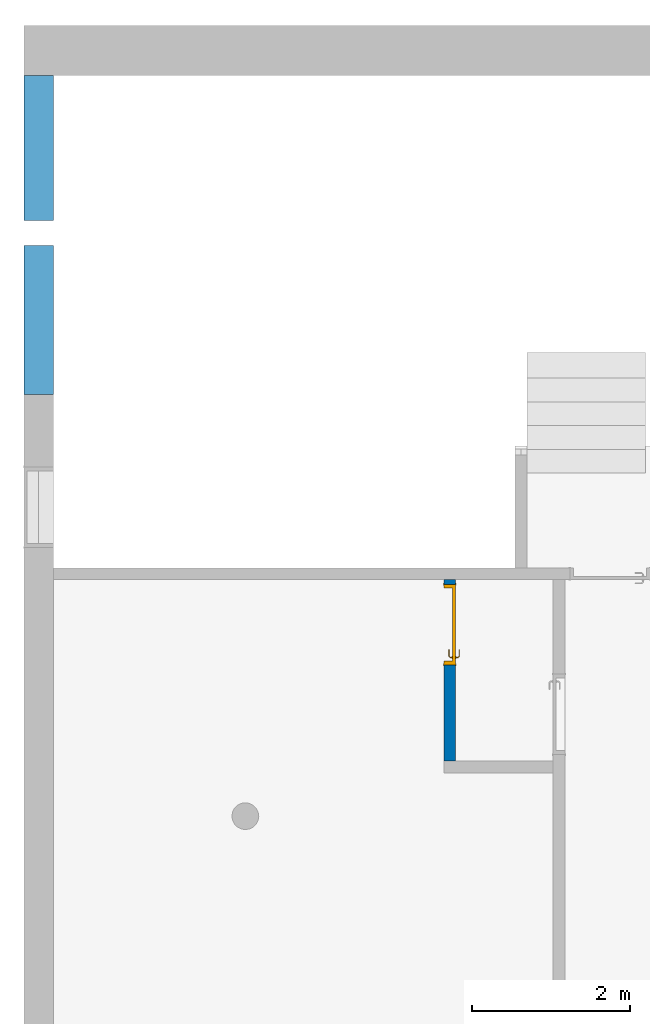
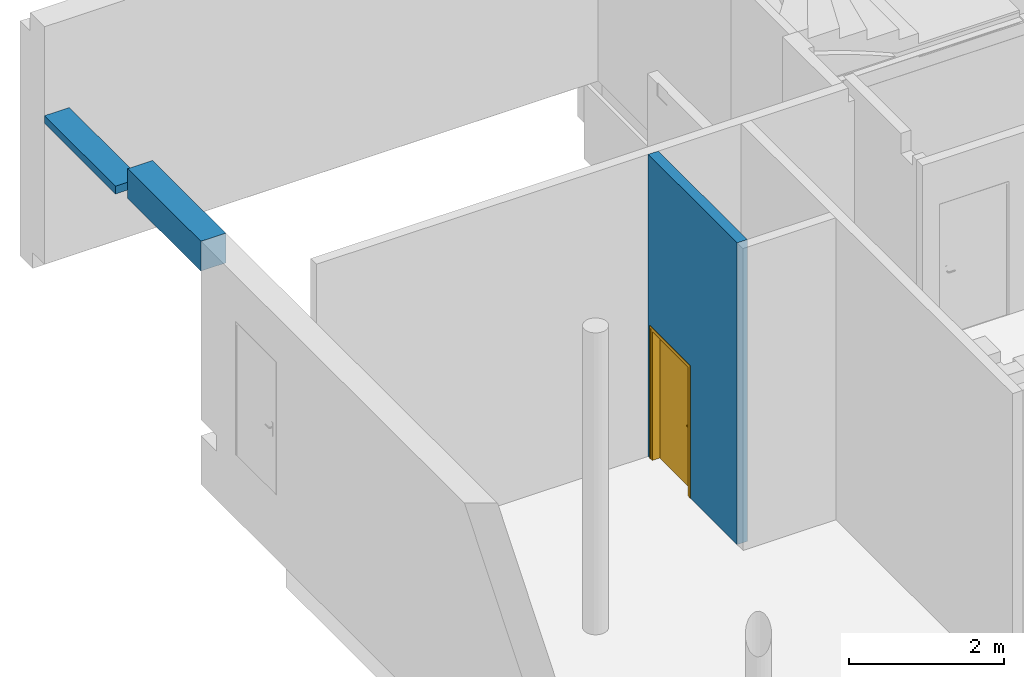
# One storey, part 5 of 39: 3 walls, 1 door, 1 opening.
"""IFC4 building model written with IfcOpenShell, lengths in metres."""

from ifc_helpers import new_model, entity, si_unit, converted_unit, derived_unit, direction, frame, origin, place, context, subcontext, project, spatial, indexed_curve, outline, extrude, polygons, source, transform, mapped, material, material_list, layer, layer_set, constituent, constituent_set, type_object, type_shapes, element, fill, save


model = new_model("IFC4")

# Units and contexts
model_context = context("Model", 3, precision=1e-05, world=origin(), true_north=direction((6.12303176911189e-17, 1.0)))
body_context = subcontext(model_context, "Body", "Model", "MODEL_VIEW")
ifc_project = project(units=[si_unit("LENGTHUNIT", "METRE"), si_unit("AREAUNIT", "SQUARE_METRE"), si_unit("VOLUMEUNIT", "CUBIC_METRE"), converted_unit("PLANEANGLEUNIT", "DEGREE", entity("IfcRatioMeasure", 0.0174532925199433), si_unit("PLANEANGLEUNIT", "RADIAN"), dimensions=[0, 0, 0, 0, 0, 0, 0]), si_unit("MASSUNIT", "GRAM", prefix="KILO"), derived_unit("MASSDENSITYUNIT", [(si_unit("MASSUNIT", "GRAM", prefix="KILO"), 1), (si_unit("LENGTHUNIT", "METRE"), -3)]), derived_unit("MOMENTOFINERTIAUNIT", [(si_unit("LENGTHUNIT", "METRE"), 4)]), si_unit("TIMEUNIT", "SECOND"), si_unit("FREQUENCYUNIT", "HERTZ"), si_unit("THERMODYNAMICTEMPERATUREUNIT", "DEGREE_CELSIUS"), derived_unit("THERMALTRANSMITTANCEUNIT", [(si_unit("MASSUNIT", "GRAM", prefix="KILO"), 1), (si_unit("THERMODYNAMICTEMPERATUREUNIT", "KELVIN"), -1), (si_unit("TIMEUNIT", "SECOND"), -3)]), derived_unit("VOLUMETRICFLOWRATEUNIT", [(si_unit("LENGTHUNIT", "METRE"), 3), (si_unit("TIMEUNIT", "SECOND"), -1)]), si_unit("ELECTRICCURRENTUNIT", "AMPERE"), si_unit("ELECTRICVOLTAGEUNIT", "VOLT"), si_unit("POWERUNIT", "WATT"), si_unit("FORCEUNIT", "NEWTON", prefix="KILO"), si_unit("ILLUMINANCEUNIT", "LUX"), si_unit("LUMINOUSFLUXUNIT", "LUMEN"), si_unit("LUMINOUSINTENSITYUNIT", "CANDELA"), derived_unit("USERDEFINED", [(si_unit("MASSUNIT", "GRAM", prefix="KILO"), -1), (si_unit("LENGTHUNIT", "METRE"), -2), (si_unit("TIMEUNIT", "SECOND"), 3), (si_unit("LUMINOUSFLUXUNIT", "LUMEN"), 1)]), derived_unit("LINEARVELOCITYUNIT", [(si_unit("LENGTHUNIT", "METRE"), 1), (si_unit("TIMEUNIT", "SECOND"), -1)]), si_unit("PRESSUREUNIT", "PASCAL"), derived_unit("USERDEFINED", [(si_unit("LENGTHUNIT", "METRE"), -2), (si_unit("MASSUNIT", "GRAM", prefix="KILO"), 1), (si_unit("TIMEUNIT", "SECOND"), -2)]), derived_unit("LINEARFORCEUNIT", [(si_unit("MASSUNIT", "GRAM", prefix="KILO"), 1), (si_unit("LENGTHUNIT", "METRE"), 1), (si_unit("TIMEUNIT", "SECOND"), -2), (si_unit("LENGTHUNIT", "METRE"), -1)]), derived_unit("PLANARFORCEUNIT", [(si_unit("MASSUNIT", "GRAM", prefix="KILO"), 1), (si_unit("LENGTHUNIT", "METRE"), 1), (si_unit("TIMEUNIT", "SECOND"), -2), (si_unit("LENGTHUNIT", "METRE"), -2)])], contexts=[model_context])

# Site, building, storey
site_placement = place(None, origin())
site = spatial("IfcSite", under=ifc_project, at=site_placement, Name="Default", CompositionType="ELEMENT")
building_placement = place(site_placement, origin())
building = spatial("IfcBuilding", under=site, at=building_placement, Name="HOTEL CONSULAIRE BOULOGNE SUR MER", CompositionType="ELEMENT")
storey_placement = place(building_placement, frame((0.0, 0.0, -5.02343668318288)))
storey = spatial("IfcBuildingStorey", under=building, at=storey_placement, Name="SS3", CompositionType="ELEMENT", Elevation=-5.02343668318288)

# Wall, opening, door
ifc_material_1 = material(Name="Mur par défaut", Category="Divers")
ifc_layer_1 = layer(ifc_material_1, 0.15, Name="Mur par défaut", Category="Divers")
ifc_layer_set_1 = layer_set([ifc_layer_1], Name="Mur de base:Générique - Int. 150 mm")
wall_type_1 = type_object("IfcWallType", Name="Mur de base:Générique - Int. 150 mm", PredefinedType="NOTDEFINED", material=ifc_layer_set_1)
wall_1_placement = place(storey_placement, frame((-8.46043817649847, -19.1202500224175, 0.0), z_axis=(0.0, 0.0, 1.0), x_axis=(0.0, 1.0, 0.0)))
wall_1 = element("IfcWall", 1, at=wall_1_placement, inside=storey, type_object=wall_type_1, material=ifc_layer_set_1, Name="Mur de base:Générique - Int. 150 mm", ObjectType="Mur de base:Générique - Int. 150 mm", PredefinedType="NOTDEFINED", context=body_context, shape_type="Tessellation", body=[
    polygons([(2.29566577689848, 0.0750000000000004, 0.0), (2.29566577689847, -0.074999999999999, 0.0), (2.23766577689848, -0.0749999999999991, 0.0), (2.23766577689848, 0.0750000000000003, 0.0), (2.29566577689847, -0.074999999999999, 4.75343668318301), (0.0, -0.0749999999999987, 4.75343668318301), (0.0, -0.0749999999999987, 0.0), (1.21766577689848, -0.0749999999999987, 0.0), (1.21766577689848, -0.0749999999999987, 2.07500000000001), (2.23766577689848, -0.0749999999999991, 2.07500000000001), (0.0, 0.0750000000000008, 4.75343668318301), (2.29566577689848, 0.0750000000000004, 4.75343668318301), (2.23766577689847, 0.0750000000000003, 2.07500000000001), (1.21766577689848, 0.0750000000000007, 2.07500000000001), (1.21766577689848, 0.0750000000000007, 0.0), (0.0, 0.0750000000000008, 0.0)], [[[2, 3, 4, 1]], [[8, 7, 16, 15]], [[13, 10, 9, 14]], [[7, 8, 9, 10, 3, 2, 5, 6]], [[1, 4, 13, 14, 15, 16, 11, 12]], [[6, 5, 12, 11]], [[16, 7, 6, 11]], [[4, 3, 10, 13]], [[2, 1, 12, 5]], [[14, 9, 8, 15]]], closed=True),
])
opening_placement = place(wall_1_placement, frame((2.23766577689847, 0.0749999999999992, 0.0)))
opening = element("IfcOpeningElement", 2, at=opening_placement, cuts=wall_1, Name="Int. Simple:PP0.95x2.04 2:1", ObjectType="Opening", PredefinedType="OPENING", context=body_context, shape_type="SweptSolid", body=[
    extrude(outline(indexed_curve([(0.0, -7.0184260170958e-31), (2.07500000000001, -7.0184260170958e-31), (2.07500000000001, 1.02), (0.0, 1.02), (0.0, -7.0184260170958e-31)], self_intersect=False)), frame((0.0, 0.0, 0.0), z_axis=(0.0, -1.0, 0.0), x_axis=(0.0, 0.0, 1.0)), (0.0, 0.0, 1.0), 0.15),
])
ifc_material_2 = material(Name="Finition Peinture - Blanc satiné", Category="Peinture")
ifc_constituent_1 = constituent(ifc_material_2, Name="Finition Peinture - Blanc satiné", Category="Matériaux")
ifc_material_3 = material(Name="Bois - Panneau de porte", Category="Bois")
ifc_constituent_2 = constituent(ifc_material_3, Name="Bois - Panneau de porte", Category="Matériaux")
ifc_material_4 = material(Name="Bois - Cadre de porte", Category="Bois")
ifc_constituent_3 = constituent(ifc_material_4, Name="Bois - Cadre de porte", Category="Matériaux")
ifc_constituent_set = constituent_set(constituents=[ifc_constituent_1, ifc_constituent_2, ifc_constituent_3], Name="MaterialConstituentSet")
ifc_material_list = material_list([ifc_material_4, ifc_material_4, ifc_material_2, ifc_material_3])
door_type = type_object("IfcDoorType", Name="Int. Simple:PP0.95x2.04 2", OperationType="NOTDEFINED", PredefinedType="DOOR", material=ifc_material_list)
shared_shape = source(origin(), body_context, "Body", "Tessellation", [
    polygons([(0.0750000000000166, -0.00500000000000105, 0.870000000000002), (0.0846472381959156, -0.00500000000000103, 0.866003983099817), (0.0950000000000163, -0.00500000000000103, 0.86464101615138), (0.105352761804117, -0.00500000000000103, 0.866003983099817), (0.115000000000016, -0.00500000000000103, 0.870000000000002), (0.115000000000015, -0.00500000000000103, 1.08), (0.105352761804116, -0.00500000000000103, 1.08399601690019), (0.0950000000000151, -0.00500000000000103, 1.08535898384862), (0.0846472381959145, -0.00500000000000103, 1.08399601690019), (0.0750000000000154, -0.00500000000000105, 1.08), (0.0750000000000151, -1.04902753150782e-15, 0.870000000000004), (0.0750000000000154, -1.04902753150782e-15, 1.08), (0.0846472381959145, -1.04902753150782e-15, 1.08399601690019), (0.0950000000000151, -1.04056763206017e-15, 1.08535898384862), (0.105352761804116, -1.04056763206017e-15, 1.08399601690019), (0.115000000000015, -1.03210773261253e-15, 1.08), (0.115000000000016, -1.03210773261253e-15, 0.870000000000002), (0.105352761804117, -1.04056763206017e-15, 0.866003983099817), (0.0950000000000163, -1.04056763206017e-15, 0.86464101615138), (0.0846472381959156, -1.04902753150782e-15, 0.866003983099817)], [[[4, 5, 6, 7, 8, 9, 10, 1, 2, 3]], [[15, 16, 17, 18, 19, 20, 11, 12, 13, 14]], [[11, 20, 2, 1]], [[2, 20, 19, 3]], [[19, 18, 4, 3]], [[18, 17, 5, 4]], [[6, 5, 17, 16]], [[16, 15, 7, 6]], [[7, 15, 14, 8]], [[14, 13, 9, 8]], [[13, 12, 10, 9]], [[1, 10, 12, 11]]], closed=True),
    polygons([(0.115000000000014, 0.0399999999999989, 1.08), (0.105352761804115, 0.0399999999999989, 1.08399601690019), (0.0950000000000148, 0.0399999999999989, 1.08535898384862), (0.0846472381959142, 0.0399999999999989, 1.08399601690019), (0.0750000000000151, 0.0399999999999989, 1.08), (0.0750000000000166, 0.0399999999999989, 0.870000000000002), (0.0846472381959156, 0.0399999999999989, 0.866003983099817), (0.0950000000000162, 0.0399999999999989, 0.86464101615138), (0.105352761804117, 0.0399999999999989, 0.866003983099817), (0.115000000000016, 0.0399999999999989, 0.870000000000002), (0.115000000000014, 0.044999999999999, 1.08), (0.115000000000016, 0.044999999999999, 0.870000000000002), (0.105352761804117, 0.0449999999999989, 0.866003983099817), (0.0950000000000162, 0.0449999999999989, 0.86464101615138), (0.0846472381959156, 0.0449999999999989, 0.866003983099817), (0.075000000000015, 0.0449999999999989, 0.870000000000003), (0.0750000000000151, 0.0449999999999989, 1.08), (0.0846472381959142, 0.0449999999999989, 1.08399601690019), (0.0950000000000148, 0.0449999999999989, 1.08535898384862), (0.105352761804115, 0.0449999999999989, 1.08399601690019)], [[[9, 10, 1, 2, 3, 4, 5, 6, 7, 8]], [[20, 11, 12, 13, 14, 15, 16, 17, 18, 19]], [[11, 20, 2, 1]], [[2, 20, 19, 3]], [[19, 18, 4, 3]], [[18, 17, 5, 4]], [[6, 5, 17, 16]], [[16, 15, 7, 6]], [[7, 15, 14, 8]], [[14, 13, 9, 8]], [[13, 12, 10, 9]], [[1, 10, 12, 11]]], closed=True),
    polygons([(0.0889999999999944, -0.00500000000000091, 1.007), (0.0929747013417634, -0.00500000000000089, 1.00778044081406), (0.0970252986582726, -0.00500000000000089, 1.00778044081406), (0.101000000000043, -0.00500000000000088, 1.00699999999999), (0.101000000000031, -0.00500000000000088, 0.993000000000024), (0.0970252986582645, -0.00500000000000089, 0.992219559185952), (0.0929747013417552, -0.00500000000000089, 0.99221955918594), (0.0889999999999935, -0.00500000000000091, 0.992999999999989), (0.0889999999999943, -0.0326509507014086, 1.007), (0.0929747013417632, -0.0310045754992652, 1.00778044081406), (0.0970252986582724, -0.0293267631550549, 1.00778044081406), (0.101000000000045, -0.0276803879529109, 1.007), (0.101000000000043, -0.0276803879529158, 0.993000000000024), (0.0970252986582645, -0.0293267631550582, 0.992219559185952), (0.0929747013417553, -0.0310045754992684, 0.99221955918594), (0.0889999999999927, -0.0326509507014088, 0.992999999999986), (0.107377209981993, -0.051028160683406, 1.007), (0.109023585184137, -0.0470534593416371, 1.00778044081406), (0.110701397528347, -0.0430028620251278, 1.00778044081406), (0.112347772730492, -0.0390281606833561, 1.007), (0.112347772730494, -0.0390281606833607, 0.993000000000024), (0.110701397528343, -0.0430028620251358, 0.992219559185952), (0.109023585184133, -0.0470534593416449, 0.99221955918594), (0.107377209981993, -0.0510281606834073, 0.992999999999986), (0.195018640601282, -0.0510281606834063, 1.00699999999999), (0.195018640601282, -0.051028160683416, 0.992999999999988), (0.195018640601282, -0.0470534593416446, 0.99221955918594), (0.195018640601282, -0.0430028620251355, 0.992219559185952), (0.195018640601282, -0.0390281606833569, 0.993000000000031), (0.195018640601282, -0.0390281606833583, 1.007), (0.195018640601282, -0.0430028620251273, 1.00778044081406), (0.195018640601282, -0.0470534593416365, 1.00778044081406), (0.147307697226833, -0.0510281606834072, 1.007), (0.1528600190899, -0.045028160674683, 1.0078786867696), (0.153683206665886, -0.039028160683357, 1.007), (0.147307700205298, -0.0510281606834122, 0.992999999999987), (0.152860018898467, -0.0450281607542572, 0.992121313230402), (0.153683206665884, -0.0390281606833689, 0.993000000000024)], [[[2, 3, 4, 5, 6, 7, 8, 1]], [[21, 20, 35, 30, 29, 38]], [[9, 10, 2, 1]], [[10, 18, 19, 11, 3, 2]], [[11, 12, 4, 3]], [[5, 4, 12, 13]], [[26, 27, 28, 29, 30, 31, 32, 25]], [[13, 14, 6, 5]], [[14, 22, 23, 15, 7, 6]], [[15, 16, 8, 7]], [[1, 8, 16, 9]], [[17, 18, 10, 9]], [[19, 20, 12, 11]], [[13, 12, 20, 21]], [[21, 22, 14, 13]], [[23, 24, 16, 15]], [[9, 16, 24, 17]], [[33, 32, 34]], [[25, 32, 33]], [[18, 17, 33]], [[34, 35, 19]], [[20, 19, 35]], [[35, 31, 30]], [[32, 31, 34]], [[31, 35, 34]], [[18, 33, 34]], [[18, 34, 19]], [[38, 28, 37]], [[36, 37, 27]], [[21, 38, 22]], [[38, 29, 28]], [[26, 36, 27]], [[24, 23, 36]], [[36, 23, 37]], [[23, 22, 37]], [[22, 38, 37]], [[27, 37, 28]], [[17, 24, 36, 26, 25, 33]]], closed=True),
    polygons([(0.101000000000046, 0.0449999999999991, 0.993000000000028), (0.101000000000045, 0.0449999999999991, 1.007), (0.0970252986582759, 0.0449999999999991, 1.00778044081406), (0.0929747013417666, 0.0449999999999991, 1.00778044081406), (0.0889999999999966, 0.0449999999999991, 1.007), (0.0889999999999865, 0.0449999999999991, 0.992999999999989), (0.0929747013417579, 0.0449999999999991, 0.99221955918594), (0.0970252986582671, 0.0449999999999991, 0.992219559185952), (0.101000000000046, 0.067485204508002, 0.993000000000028), (0.101000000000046, 0.0674852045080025, 1.007), (0.0970252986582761, 0.0691315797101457, 1.00778044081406), (0.0929747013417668, 0.070809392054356, 1.00778044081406), (0.0889999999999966, 0.0724557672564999, 1.007), (0.0889999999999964, 0.0724557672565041, 0.992999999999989), (0.0929747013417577, 0.0708093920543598, 0.99221955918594), (0.0970252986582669, 0.0691315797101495, 0.992219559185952), (0.112485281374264, 0.0789704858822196, 0.993000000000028), (0.112485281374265, 0.0789704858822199, 1.007), (0.110838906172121, 0.0829451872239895, 1.00778044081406), (0.109161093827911, 0.0869957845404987, 1.00778044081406), (0.107514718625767, 0.090970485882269, 1.007), (0.10751471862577, 0.090970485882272, 0.992999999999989), (0.109161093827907, 0.0869957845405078, 0.99221955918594), (0.110838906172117, 0.0829451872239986, 0.992219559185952), (0.19504578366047, 0.0789704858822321, 0.993000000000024), (0.19504578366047, 0.0829451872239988, 0.992219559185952), (0.19504578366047, 0.086995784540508, 0.99221955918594), (0.19504578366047, 0.0909704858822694, 0.992999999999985), (0.19504578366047, 0.0909704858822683, 1.007), (0.19504578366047, 0.0869957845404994, 1.00778044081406), (0.19504578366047, 0.0829451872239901, 1.00778044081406), (0.19504578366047, 0.0789704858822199, 1.007), (0.147445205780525, 0.0909704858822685, 1.007), (0.15294234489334, 0.0849704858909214, 1.0078786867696), (0.153765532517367, 0.0789704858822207, 1.007), (0.147445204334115, 0.0909704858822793, 0.992999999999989), (0.152942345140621, 0.0849704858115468, 0.992121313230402), (0.153765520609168, 0.0789704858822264, 0.993000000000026)], [[[4, 5, 6, 7, 8, 1, 2, 3]], [[18, 17, 38, 25, 32, 35]], [[2, 1, 9, 10]], [[25, 26, 27, 28, 29, 30, 31, 32]], [[10, 11, 3, 2]], [[11, 19, 20, 12, 4, 3]], [[12, 13, 5, 4]], [[6, 5, 13, 14]], [[14, 15, 7, 6]], [[15, 23, 24, 16, 8, 7]], [[16, 9, 1, 8]], [[10, 9, 17, 18]], [[18, 19, 11, 10]], [[20, 21, 13, 12]], [[14, 13, 21, 22]], [[22, 23, 15, 14]], [[24, 17, 9, 16]], [[35, 31, 34]], [[33, 34, 30]], [[18, 35, 19]], [[35, 32, 31]], [[29, 33, 30]], [[21, 20, 33]], [[33, 20, 34]], [[20, 19, 34]], [[19, 35, 34]], [[30, 34, 31]], [[21, 33, 29, 28, 36, 22]], [[36, 27, 37]], [[28, 27, 36]], [[23, 22, 36]], [[37, 38, 24]], [[17, 24, 38]], [[38, 26, 25]], [[27, 26, 37]], [[26, 38, 37]], [[23, 36, 37]], [[23, 37, 24]]], closed=True),
    polygons([(0.0350000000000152, 0.04, 2.04), (0.985000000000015, 0.04, 2.04), (0.985000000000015, 0.04, 0.0), (0.0350000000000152, 0.04, 0.0), (0.0350000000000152, 5.07593966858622e-17, 2.04), (0.0350000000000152, 5.07593966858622e-17, 0.0), (0.985000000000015, 5.07593966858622e-17, 0.0), (0.985000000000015, 5.07593966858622e-17, 2.04)], [[[4, 1, 2, 3]], [[7, 8, 5, 6]], [[2, 1, 5, 8]], [[3, 2, 8, 7]], [[4, 3, 7, 6]], [[1, 4, 6, 5]]], closed=True),
    polygons([(2.70716782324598e-16, 1.69197988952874e-17, 0.0), (2.70716782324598e-16, 0.150000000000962, 0.0), (0.0500000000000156, 0.150000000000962, 0.0), (0.0500000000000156, 0.0400000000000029, 0.0), (0.0350000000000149, 0.0400000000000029, 0.0), (0.0350000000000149, 1.69197988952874e-17, 0.0), (2.70716782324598e-16, 1.69197988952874e-17, 2.07500000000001), (2.70716782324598e-16, 0.150000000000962, 2.07500000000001), (1.02, 0.150000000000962, 2.07500000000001), (1.02, 0.150000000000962, 0.0), (0.96999999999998, 0.150000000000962, -4.03399441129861e-24), (0.969999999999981, 0.150000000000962, 2.025), (0.0500000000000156, 0.150000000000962, 2.02499999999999), (0.0500000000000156, 0.0400000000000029, 2.02499999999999), (0.96999999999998, 0.0400000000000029, 2.02499999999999), (0.96999999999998, 0.0400000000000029, -1.38450562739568e-24), (0.984999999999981, 0.0400000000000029, -4.10371668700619e-24), (0.984999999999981, 0.0400000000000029, 2.04), (0.035000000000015, 0.0400000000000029, 2.04), (0.035000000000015, 1.69197988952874e-17, 2.04), (0.984999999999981, 1.69197988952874e-17, 2.04), (0.984999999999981, 1.69197988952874e-17, -8.70076159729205e-25), (1.02, 1.69197988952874e-17, 1.5819591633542e-24), (1.02, 1.69197988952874e-17, 2.07500000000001)], [[[5, 6, 1, 2, 3, 4]], [[11, 10, 23, 22, 17, 16]], [[14, 13, 12, 15]], [[20, 19, 18, 21]], [[2, 1, 7, 8]], [[15, 12, 11, 16]], [[21, 18, 17, 22]], [[3, 2, 8, 9, 10, 11, 12, 13]], [[4, 3, 13, 14]], [[6, 5, 19, 20]], [[9, 24, 23, 10]], [[16, 17, 18, 19, 5, 4, 14, 15]], [[22, 23, 24, 7, 1, 6, 20, 21]], [[8, 7, 24, 9]]], closed=True),
    polygons([(0.0150000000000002, 0.150000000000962, 0.0), (-0.0149999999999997, 0.150000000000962, 0.0), (-0.0149999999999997, 0.155000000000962, 0.0), (0.0150000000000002, 0.155000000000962, 0.0), (0.0150000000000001, 0.150000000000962, 2.06000000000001), (1.005, 0.150000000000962, 2.06000000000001), (1.005, 0.150000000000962, 7.44135206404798e-25), (1.035, 0.150000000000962, 3.21152985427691e-24), (1.035, 0.150000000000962, 2.09000000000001), (-0.0149999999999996, 0.150000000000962, 2.09000000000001), (-0.0149999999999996, 0.155000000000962, 2.09000000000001), (1.035, 0.155000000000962, 2.09000000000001), (1.035, 0.155000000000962, 4.82535527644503e-25), (1.005, 0.155000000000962, 5.65531304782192e-24), (1.005, 0.155000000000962, 2.06000000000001), (0.0150000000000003, 0.155000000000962, 2.06000000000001)], [[[1, 2, 3, 4]], [[14, 13, 8, 7]], [[5, 16, 15, 6]], [[7, 8, 9, 10, 2, 1, 5, 6]], [[3, 2, 10, 11]], [[6, 15, 14, 7]], [[4, 3, 11, 12, 13, 14, 15, 16]], [[1, 4, 16, 5]], [[12, 9, 8, 13]], [[11, 10, 9, 12]]], closed=True),
    polygons([(1.005, -0.00499999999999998, 0.0), (1.005, 1.69197988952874e-17, 0.0), (1.035, 1.69197988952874e-17, 0.0), (1.035, -0.00499999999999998, 0.0), (0.0150000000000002, -0.00499999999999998, 0.0), (-0.0149999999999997, -0.00499999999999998, 0.0), (-0.0149999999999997, 1.69197988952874e-17, 0.0), (0.0150000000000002, 1.69197988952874e-17, 0.0), (0.0150000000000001, -0.00499999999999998, 2.06000000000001), (1.005, -0.00499999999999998, 2.06000000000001), (1.035, -0.00499999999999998, 2.09000000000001), (-0.0149999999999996, -0.00499999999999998, 2.09000000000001), (-0.0149999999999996, 1.69197988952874e-17, 2.09000000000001), (1.035, 1.69197988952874e-17, 2.09000000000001), (1.005, 1.69197988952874e-17, 2.06000000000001), (0.0150000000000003, 1.69197988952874e-17, 2.06000000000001)], [[[2, 3, 4, 1]], [[6, 7, 8, 5]], [[9, 16, 15, 10]], [[1, 4, 11, 12, 6, 5, 9, 10]], [[7, 6, 12, 13]], [[10, 15, 2, 1]], [[8, 7, 13, 14, 3, 2, 15, 16]], [[5, 8, 16, 9]], [[14, 11, 4, 3]], [[13, 12, 11, 14]]], closed=True),
])
type_shapes(door_type, [shared_shape])
door_placement = place(opening_placement, frame((-1.02, -0.150000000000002, 0.0)))
door = element("IfcDoor", 3, at=door_placement, inside=storey, type_object=door_type, material=ifc_constituent_set, Name="Int. Simple:PP0.95x2.04 2", ObjectType="Int. Simple:PP0.95x2.04 2", OperationType="NOTDEFINED", OverallHeight=2.07500000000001, OverallWidth=1.02, PredefinedType="DOOR", context=body_context, shape_type="MappedRepresentation", body=[
    mapped(shared_shape, transform((0.0, 0.0, 0.0), scale=1.0)),
])
fill(opening, door)

# Walls
ifc_layer_2 = layer(ifc_material_1, 0.37, Name="Mur par défaut", Category="Divers")
ifc_layer_set_2 = layer_set([ifc_layer_2], Name="Mur de base:Générique - Ext.370")
wall_type_2 = type_object("IfcWallType", Name="Mur de base:Générique - Ext.370", PredefinedType="NOTDEFINED", material=ifc_layer_set_2)
wall_2_placement = place(storey_placement, frame((-13.6603496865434, -14.4833241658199, 3.35455163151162), z_axis=(0.0, 0.0, 1.0), x_axis=(0.0, 1.0, 0.0)))
element("IfcWall", 4, at=wall_2_placement, inside=storey, type_object=wall_type_2, material=ifc_layer_set_2, Name="Mur de base:Générique - Ext.370", ObjectType="Mur de base:Générique - Ext.370", PredefinedType="NOTDEFINED", context=body_context, shape_type="SweptSolid", body=[
    extrude(outline(indexed_curve([(1.888, 0.185), (-2.9311190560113e-16, 0.184999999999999), (2.9311190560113e-16, -0.184999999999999), (1.888, -0.184999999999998), (1.888, 0.185)], self_intersect=False)), origin(), (0.0, 0.0, 1.0), 0.469296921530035),
])
wall_3_placement = place(storey_placement, frame((-13.6603496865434, -12.2801492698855, 3.23271804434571), z_axis=(0.0, 0.0, 1.0), x_axis=(0.0, 1.0, 0.0)))
element("IfcWall", 5, at=wall_3_placement, inside=storey, type_object=wall_type_2, material=ifc_layer_set_2, Name="Mur de base:Générique - Ext.370", ObjectType="Mur de base:Générique - Ext.370", PredefinedType="NOTDEFINED", context=body_context, shape_type="SweptSolid", body=[
    extrude(outline(indexed_curve([(1.83382510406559, 0.185), (-2.9311190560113e-16, 0.184999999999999), (2.9311190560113e-16, -0.184999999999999), (1.83382510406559, -0.184999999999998), (1.83382510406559, 0.185)], self_intersect=False)), origin(), (0.0, 0.0, 1.0), 0.121833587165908),
])

save(model, "model.ifc")
